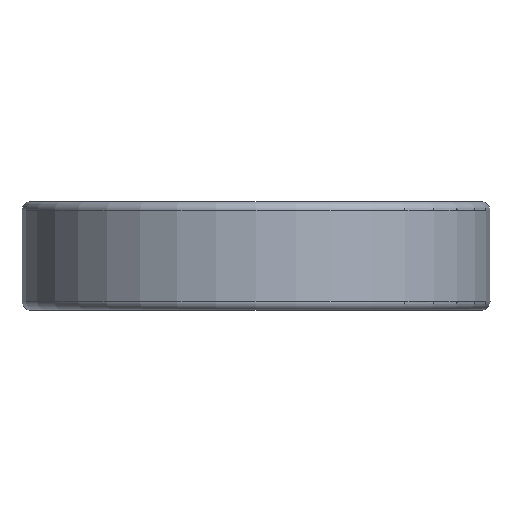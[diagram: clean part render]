
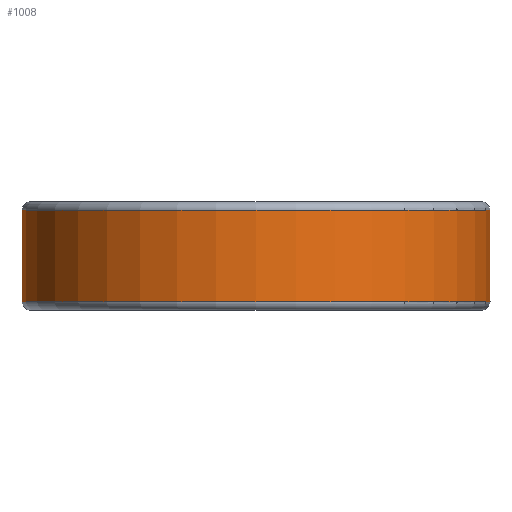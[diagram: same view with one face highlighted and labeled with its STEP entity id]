
A CAD part, left-side view. The second image highlights one B-rep face of the part: STEP entity #1008.
In plain terms, the highlighted cylindrical face has radius 41 mm (diameter 82 mm), a partial arc.
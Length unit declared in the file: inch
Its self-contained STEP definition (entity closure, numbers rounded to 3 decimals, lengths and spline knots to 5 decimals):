
#59=DIRECTION('',(0.,0.,-1.));
#60=VECTOR('',#59,0.21385);
#61=CARTESIAN_POINT('',(1.5805,0.328,0.48094));
#62=LINE('',#61,#60);
#109=DIRECTION('',(0.,0.,1.));
#110=VECTOR('',#109,0.05134);
#111=CARTESIAN_POINT('',(1.5805,0.328,0.21575));
#112=LINE('',#111,#110);
#113=CARTESIAN_POINT('',(1.5805,0.328,0.53228));
#114=CARTESIAN_POINT('',(1.56837,0.38643,0.55009));
#115=CARTESIAN_POINT('',(1.53901,0.49547,0.58402));
#116=CARTESIAN_POINT('',(1.48563,0.63659,0.6221));
#117=CARTESIAN_POINT('',(1.4266,0.75886,0.64649));
#118=CARTESIAN_POINT('',(1.36525,0.86371,0.65696));
#119=CARTESIAN_POINT('',(1.30446,0.95252,0.65403));
#120=CARTESIAN_POINT('',(1.24694,1.02623,0.63866));
#121=CARTESIAN_POINT('',(1.19516,1.08575,0.6124));
#122=CARTESIAN_POINT('',(1.15116,1.132,0.57739));
#123=CARTESIAN_POINT('',(1.11646,1.16603,0.53649));
#124=CARTESIAN_POINT('',(1.09115,1.18962,0.49217));
#125=CARTESIAN_POINT('',(1.07461,1.20452,0.44574));
#126=CARTESIAN_POINT('',(1.06643,1.21173,0.39819));
#127=CARTESIAN_POINT('',(1.06639,1.21176,0.35028));
#128=CARTESIAN_POINT('',(1.07449,1.20462,0.30272));
#129=CARTESIAN_POINT('',(1.09096,1.1898,0.25627));
#130=CARTESIAN_POINT('',(1.11618,1.16629,0.21194));
#131=CARTESIAN_POINT('',(1.15076,1.1324,0.17103));
#132=CARTESIAN_POINT('',(1.1947,1.08624,0.13592));
#133=CARTESIAN_POINT('',(1.24646,1.02682,0.10955));
#134=CARTESIAN_POINT('',(1.30396,0.95321,0.09408));
#135=CARTESIAN_POINT('',(1.36476,0.8645,0.09103));
#136=CARTESIAN_POINT('',(1.42619,0.75963,0.10141));
#137=CARTESIAN_POINT('',(1.48537,0.63721,0.12578));
#138=CARTESIAN_POINT('',(1.5389,0.49585,0.16389));
#139=CARTESIAN_POINT('',(1.56834,0.38657,0.1979));
#140=CARTESIAN_POINT('',(1.5805,0.328,0.21575));
#142=DIRECTION('',(0.,0.,1.));
#143=VECTOR('',#142,0.05134);
#144=CARTESIAN_POINT('',(1.5805,0.328,0.48094));
#145=LINE('',#144,#143);
#146=CARTESIAN_POINT('',(0.,0.,0.05984));
#147=DIRECTION('',(0.,0.,-1.));
#148=DIRECTION('',(0.999,-0.039,0.));
#149=AXIS2_PLACEMENT_3D('',#146,#147,#148);
#151=DIRECTION('',(0.,0.,-1.));
#152=VECTOR('',#151,0.62836);
#153=CARTESIAN_POINT('',(1.61296,0.0625,0.68819));
#154=LINE('',#153,#152);
#155=CARTESIAN_POINT('',(0.,0.,0.68819));
#156=DIRECTION('',(0.,0.,1.));
#157=DIRECTION('',(0.999,0.039,0.));
#158=AXIS2_PLACEMENT_3D('',#155,#156,#157);
#160=DIRECTION('',(0.,0.,1.));
#161=VECTOR('',#160,0.62836);
#162=CARTESIAN_POINT('',(1.61296,-0.0625,
0.05984));
#163=LINE('',#162,#161);
#164=CARTESIAN_POINT('',(1.348,-0.88795,0.51002));
#165=CARTESIAN_POINT('',(1.3572,-0.87398,
0.51002));
#166=CARTESIAN_POINT('',(1.37432,-0.84705,
0.50818));
#167=CARTESIAN_POINT('',(1.39647,-0.80992,
0.50171));
#168=CARTESIAN_POINT('',(1.41548,-0.77616,
0.49267));
#169=CARTESIAN_POINT('',(1.43167,-0.74581,
0.48178));
#170=CARTESIAN_POINT('',(1.44539,-0.7188,
0.46952));
#171=CARTESIAN_POINT('',(1.45693,-0.69505,
0.45606));
#172=CARTESIAN_POINT('',(1.46651,-0.67457,
0.4415));
#173=CARTESIAN_POINT('',(1.47421,-0.65754,
0.42577));
#174=CARTESIAN_POINT('',(1.47989,-0.64461,
0.40878));
#175=CARTESIAN_POINT('',(1.48325,-0.63682,
0.39144));
#176=CARTESIAN_POINT('',(1.48437,-0.63419,
0.37389));
#177=CARTESIAN_POINT('',(1.48321,-0.63691,
0.35637));
#178=CARTESIAN_POINT('',(1.47984,-0.64473,
0.33905));
#179=CARTESIAN_POINT('',(1.47412,-0.65773,
0.3221));
#180=CARTESIAN_POINT('',(1.46643,-0.67475,
0.30639));
#181=CARTESIAN_POINT('',(1.45685,-0.69522,
0.29186));
#182=CARTESIAN_POINT('',(1.44531,-0.71896,
0.27843));
#183=CARTESIAN_POINT('',(1.43159,-0.74595,
0.26619));
#184=CARTESIAN_POINT('',(1.41541,-0.77628,
0.25533));
#185=CARTESIAN_POINT('',(1.39642,-0.81001,
0.2463));
#186=CARTESIAN_POINT('',(1.37429,-0.8471,
0.23985));
#187=CARTESIAN_POINT('',(1.35719,-0.874,
0.23802));
#188=CARTESIAN_POINT('',(1.348,-0.88795,0.23802));
#510=CARTESIAN_POINT('',(1.348,-0.88795,0.51002));
#511=CARTESIAN_POINT('',(1.33828,-0.90271,
0.51002));
#512=CARTESIAN_POINT('',(1.31922,-0.9306,
0.50794));
#513=CARTESIAN_POINT('',(1.29247,-0.9673,
0.4992));
#514=CARTESIAN_POINT('',(1.26845,-0.99851,
0.48545));
#515=CARTESIAN_POINT('',(1.24803,-1.02386,0.46751));
#516=CARTESIAN_POINT('',(1.23189,-1.04313,0.44642));
#517=CARTESIAN_POINT('',(1.22039,-1.05655,0.4233));
#518=CARTESIAN_POINT('',(1.21347,-1.06443,0.39879));
#519=CARTESIAN_POINT('',(1.2112,-1.06702,0.37327));
#520=CARTESIAN_POINT('',(1.21374,-1.06414,0.34786));
#521=CARTESIAN_POINT('',(1.22084,-1.05603,0.32363));
#522=CARTESIAN_POINT('',(1.23241,-1.04252,0.30081));
#523=CARTESIAN_POINT('',(1.24854,-1.02323,0.27999));
#524=CARTESIAN_POINT('',(1.26891,-0.99792,
0.26227));
#525=CARTESIAN_POINT('',(1.29282,-0.96683,
0.24869));
#526=CARTESIAN_POINT('',(1.31941,-0.93032,
0.24007));
#527=CARTESIAN_POINT('',(1.33834,-0.90261,
0.23802));
#528=CARTESIAN_POINT('',(1.348,-0.88795,0.23802));
#642=CARTESIAN_POINT('',(1.5805,0.328,0.26709));
#643=VERTEX_POINT('',#642);
#644=CARTESIAN_POINT('',(1.5805,0.328,0.48094));
#645=VERTEX_POINT('',#644);
#690=CARTESIAN_POINT('',(1.348,-0.88795,0.23802));
#692=VERTEX_POINT('',#690);
#694=VERTEX_POINT('',#510);
#697=CARTESIAN_POINT('',(1.5805,0.328,0.21575));
#698=VERTEX_POINT('',#697);
#699=CARTESIAN_POINT('',(1.5805,0.328,0.53228));
#700=VERTEX_POINT('',#699);
#701=CARTESIAN_POINT('',(1.61296,-0.0625,
0.05984));
#702=CARTESIAN_POINT('',(1.61296,0.0625,0.05984));
#703=VERTEX_POINT('',#701);
#704=VERTEX_POINT('',#702);
#705=CARTESIAN_POINT('',(1.61296,0.0625,0.68819));
#706=VERTEX_POINT('',#705);
#707=CARTESIAN_POINT('',(1.61296,-0.0625,
0.68819));
#708=VERTEX_POINT('',#707);
#980=CARTESIAN_POINT('',(0.,0.,0.74803));
#981=DIRECTION('',(0.,0.,-1.));
#982=DIRECTION('',(-1.,0.,0.));
#983=AXIS2_PLACEMENT_3D('',#980,#981,#982);
#984=CYLINDRICAL_SURFACE('',#983,1.61417);
#986=ORIENTED_EDGE('',*,*,#985,.T.);
#988=ORIENTED_EDGE('',*,*,#987,.F.);
#990=ORIENTED_EDGE('',*,*,#989,.T.);
#992=ORIENTED_EDGE('',*,*,#991,.F.);
#993=EDGE_LOOP('',(#986,#988,#990,#992));
#994=FACE_OUTER_BOUND('',#993,.F.);
#995=ORIENTED_EDGE('',*,*,#799,.F.);
#997=ORIENTED_EDGE('',*,*,#996,.F.);
#998=ORIENTED_EDGE('',*,*,#795,.F.);
#999=ORIENTED_EDGE('',*,*,#841,.T.);
#1000=EDGE_LOOP('',(#995,#997,#998,#999));
#1001=FACE_BOUND('',#1000,.F.);
#1003=ORIENTED_EDGE('',*,*,#1002,.T.);
#1005=ORIENTED_EDGE('',*,*,#1004,.F.);
#1006=EDGE_LOOP('',(#1003,#1005));
#1007=FACE_BOUND('',#1006,.F.);
#141=B_SPLINE_CURVE_WITH_KNOTS('',3,(#113,#114,#115,#116,#117,#118,#119,#120,
#121,#122,#123,#124,#125,#126,#127,#128,#129,#130,#131,#132,#133,#134,#135,#136,
#137,#138,#139,#140),.UNSPECIFIED.,.F.,.F.,(4,1,1,1,1,1,1,1,1,1,1,1,1,1,1,1,1,1,
1,1,1,1,1,1,1,4),(0.,0.04,0.08,0.12,0.16,0.2,0.24,0.28,0.32,
0.36,0.4,0.44,0.48,0.52,0.56,0.6,0.64,0.68,0.72,0.76,
0.8,0.84,0.88,0.92,0.96,1.),.UNSPECIFIED.);
#150=CIRCLE('',#149,1.61417);
#159=CIRCLE('',#158,1.61417);
#189=B_SPLINE_CURVE_WITH_KNOTS('',3,(#164,#165,#166,#167,#168,#169,#170,#171,
#172,#173,#174,#175,#176,#177,#178,#179,#180,#181,#182,#183,#184,#185,#186,#187,
#188),.UNSPECIFIED.,.F.,.F.,(4,1,1,1,1,1,1,1,1,1,1,1,1,1,1,1,1,1,1,1,1,1,4),(
0.,0.04545,0.09091,0.13636,0.18182,
0.22727,0.27273,0.31818,0.36364,
0.40909,0.45455,0.5,0.54545,0.59091,
0.63636,0.68182,0.72727,0.77273,
0.81818,0.86364,0.90909,0.95455,1.),
.UNSPECIFIED.);
#529=B_SPLINE_CURVE_WITH_KNOTS('',3,(#510,#511,#512,#513,#514,#515,#516,#517,
#518,#519,#520,#521,#522,#523,#524,#525,#526,#527,#528),.UNSPECIFIED.,.F.,.F.,
(4,1,1,1,1,1,1,1,1,1,1,1,1,1,1,1,4),(0.,0.0625,0.125,0.1875,0.25,
0.3125,0.375,0.4375,0.5,0.5625,0.625,0.6875,0.75,0.8125,
0.875,0.9375,1.),.UNSPECIFIED.);
#795=EDGE_CURVE('',#645,#700,#145,.T.);
#799=EDGE_CURVE('',#698,#643,#112,.T.);
#841=EDGE_CURVE('',#645,#643,#62,.T.);
#985=EDGE_CURVE('',#703,#704,#150,.T.);
#987=EDGE_CURVE('',#706,#704,#154,.T.);
#989=EDGE_CURVE('',#706,#708,#159,.T.);
#991=EDGE_CURVE('',#703,#708,#163,.T.);
#996=EDGE_CURVE('',#700,#698,#141,.T.);
#1002=EDGE_CURVE('',#694,#692,#529,.T.);
#1004=EDGE_CURVE('',#694,#692,#189,.T.);
#1008=ADVANCED_FACE('',(#994,#1001,#1007),#984,.T.);
